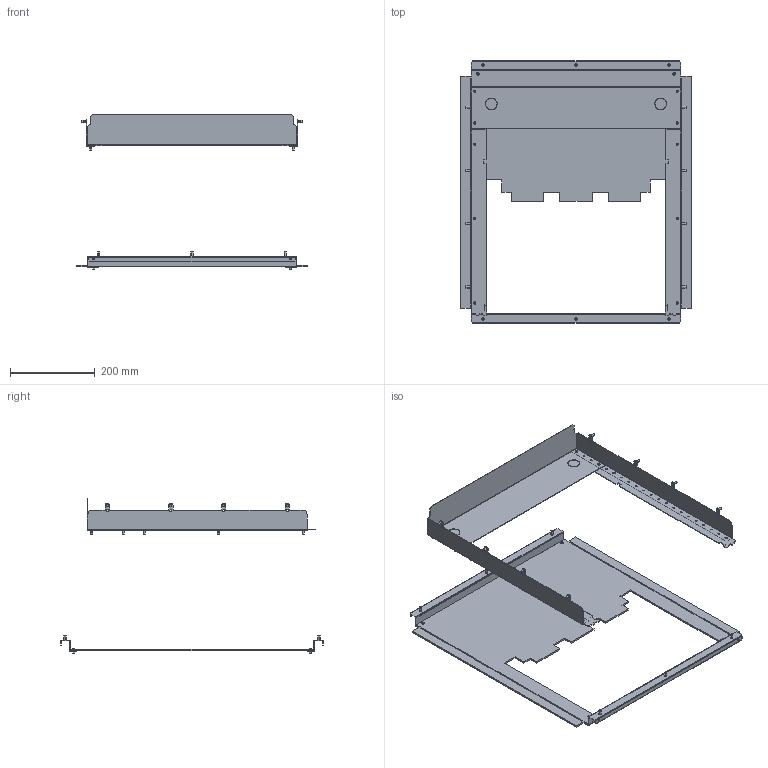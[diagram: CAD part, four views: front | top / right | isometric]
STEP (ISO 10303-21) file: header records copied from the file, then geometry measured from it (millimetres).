
FILE_DESCRIPTION(('CAx-IF Rec.Pracs.---Model Styling and Organization---1.2---2011-12-15','CAx-IF Rec.Pracs.---Geometric and Assembly Validation Properties---4.1---2014-06-16','CAx-IF Rec.Pracs.---PMI Polyline Presentation---2.0---2013-05-24'),'2;1');
FILE_NAME('R5FRC7V61525.stp','2021-07-29T02:05:51+03:00',(''),(''),'STEP Interface 4.4 by CT CoreTechnologie','3D_Evolution4.4 by CT CoreTechnologie','');
FILE_SCHEMA(('AUTOMOTIVE_DESIGN { 1 0 10303 214 1 1 1 1 }'));
Length unit declared in the file: millimetre
Products named in the file (1): R5FRC6V61525
Bounding box: 545 x 621 x 368 mm (x, y, z)
Surface area: 901053.4 mm2 (no closed solid volume)
Topology: 0 solids, 36 shells, 631 faces, 1639 edges, 1080 vertices
Faces by surface type: plane 349, cylinder 282
Entity records: 19753 total; most frequent: DIRECTION 3467, CARTESIAN_POINT 3351, ORIENTED_EDGE 3278, EDGE_CURVE 1639, AXIS2_PLACEMENT_3D 1196, VERTEX_POINT 1080, VECTOR 1075, LINE 1075
